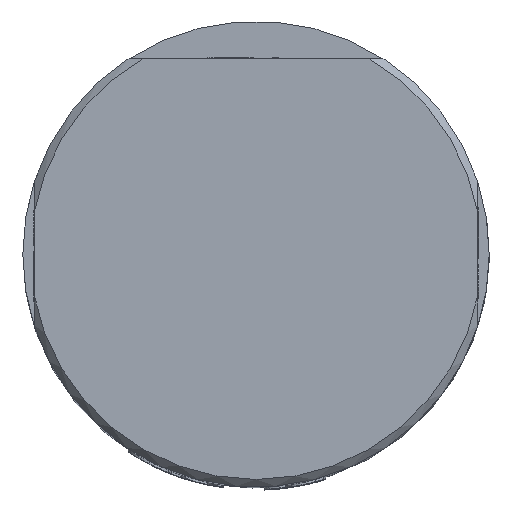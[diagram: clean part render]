
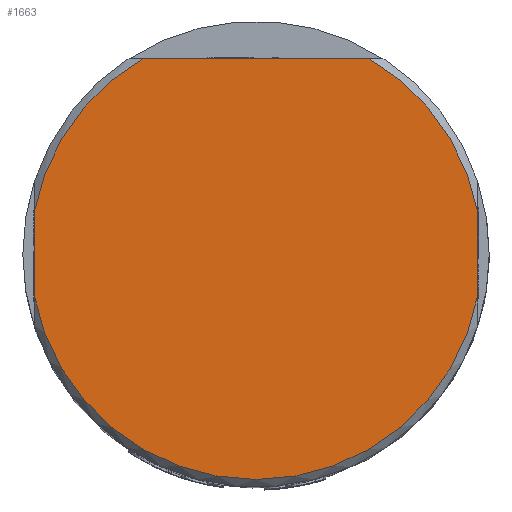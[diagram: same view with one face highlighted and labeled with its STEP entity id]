
A CAD part, top view. The second image highlights one B-rep face of the part: STEP entity #1663.
In plain terms, the highlighted planar face has unit normal (0, 0, 1).
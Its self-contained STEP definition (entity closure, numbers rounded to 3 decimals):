
#463=CIRCLE('',#17368,30.);
#465=CIRCLE('',#17371,30.);
#468=CIRCLE('',#17375,30.);
#1663=ADVANCED_FACE('',(#2908),#2205,.T.);
#2205=PLANE('',#17377);
#2908=FACE_OUTER_BOUND('',#3812,.T.);
#3812=EDGE_LOOP('',(#7991,#7992,#7993,#7994,#7995,#7996));
#4385=LINE('',#32118,#5053);
#4387=LINE('',#32143,#5055);
#4391=LINE('',#32162,#5059);
#5053=VECTOR('',#19050,1.);
#5055=VECTOR('',#19072,1.);
#5059=VECTOR('',#19078,1.);
#7991=ORIENTED_EDGE('',*,*,#13903,.T.);
#7992=ORIENTED_EDGE('',*,*,#13881,.T.);
#7993=ORIENTED_EDGE('',*,*,#13900,.T.);
#7994=ORIENTED_EDGE('',*,*,#13887,.T.);
#7995=ORIENTED_EDGE('',*,*,#13898,.T.);
#7996=ORIENTED_EDGE('',*,*,#13873,.T.);
#11552=VERTEX_POINT('',#32117);
#11553=VERTEX_POINT('',#32119);
#11562=VERTEX_POINT('',#32144);
#11563=VERTEX_POINT('',#32145);
#11568=VERTEX_POINT('',#32163);
#11569=VERTEX_POINT('',#32164);
#13873=EDGE_CURVE('',#11553,#11552,#4385,.T.);
#13881=EDGE_CURVE('',#11562,#11563,#4387,.T.);
#13887=EDGE_CURVE('',#11568,#11569,#4391,.T.);
#13898=EDGE_CURVE('',#11569,#11553,#463,.T.);
#13900=EDGE_CURVE('',#11563,#11568,#465,.T.);
#13903=EDGE_CURVE('',#11552,#11562,#468,.T.);
#17368=AXIS2_PLACEMENT_3D('',#32194,#19098,#19099);
#17371=AXIS2_PLACEMENT_3D('',#32197,#19104,#19105);
#17375=AXIS2_PLACEMENT_3D('',#32201,#19112,#19113);
#17377=AXIS2_PLACEMENT_3D('',#32203,#19116,#19117);
#19050=DIRECTION('',(-1.,0.,0.));
#19072=DIRECTION('',(0.,-1.,0.));
#19078=DIRECTION('',(0.,1.,0.));
#19098=DIRECTION('',(0.,0.,1.));
#19099=DIRECTION('',(1.,0.,0.));
#19104=DIRECTION('',(0.,0.,1.));
#19105=DIRECTION('',(1.,0.,0.));
#19112=DIRECTION('',(0.,0.,1.));
#19113=DIRECTION('',(1.,0.,0.));
#19116=DIRECTION('',(0.,0.,1.));
#19117=DIRECTION('',(1.,0.,0.));
#32117=CARTESIAN_POINT('',(-14.967,26.,107.5));
#32118=CARTESIAN_POINT('',(0.,26.,107.5));
#32119=CARTESIAN_POINT('',(14.967,26.,107.5));
#32143=CARTESIAN_POINT('',(-29.5,0.,107.5));
#32144=CARTESIAN_POINT('',(-29.5,5.454,107.5));
#32145=CARTESIAN_POINT('',(-29.5,-5.454,107.5));
#32162=CARTESIAN_POINT('',(29.5,0.,107.5));
#32163=CARTESIAN_POINT('',(29.5,-5.454,107.5));
#32164=CARTESIAN_POINT('',(29.5,5.454,107.5));
#32194=CARTESIAN_POINT('',(0.,0.,107.5));
#32197=CARTESIAN_POINT('',(0.,0.,107.5));
#32201=CARTESIAN_POINT('',(0.,0.,107.5));
#32203=CARTESIAN_POINT('',(0.,0.,107.5));
